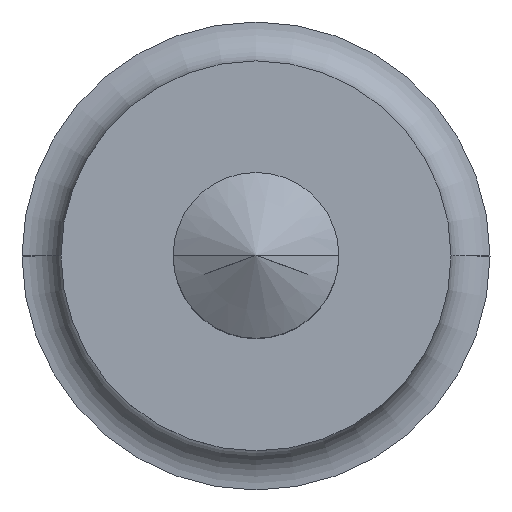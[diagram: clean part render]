
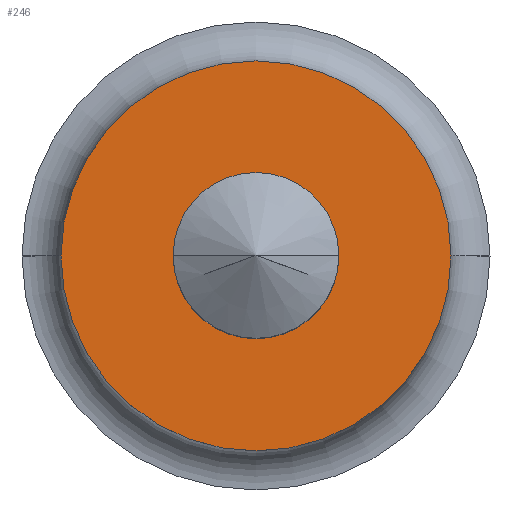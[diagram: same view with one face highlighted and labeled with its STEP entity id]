
A CAD part, top view. The second image highlights one B-rep face of the part: STEP entity #246.
In plain terms, the highlighted planar face has unit normal (0, 0, 1).
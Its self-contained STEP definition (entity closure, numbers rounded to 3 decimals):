
#7 = DIRECTION ( 'NONE',  ( 1., 0., 0. ) ) ;
#11 = CARTESIAN_POINT ( 'NONE',  ( -4.25, 0., 3. ) ) ;
#12 = EDGE_CURVE ( 'NONE', #49, #384, #60, .T. ) ;
#27 = DIRECTION ( 'NONE',  ( 0., 0., 1. ) ) ;
#41 = DIRECTION ( 'NONE',  ( 1., 0., 0. ) ) ;
#49 = VERTEX_POINT ( 'NONE', #106 ) ;
#54 = ORIENTED_EDGE ( 'NONE', *, *, #170, .T. ) ;
#60 = CIRCLE ( 'NONE', #312, 4.25 ) ;
#70 = EDGE_CURVE ( 'NONE', #384, #49, #233, .T. ) ;
#74 = VERTEX_POINT ( 'NONE', #162 ) ;
#75 = EDGE_LOOP ( 'NONE', ( #54, #219 ) ) ;
#97 = ORIENTED_EDGE ( 'NONE', *, *, #70, .F. ) ;
#99 = AXIS2_PLACEMENT_3D ( 'NONE', #132, #198, #372 ) ;
#106 = CARTESIAN_POINT ( 'NONE',  ( 4.25, 0., 3. ) ) ;
#129 = ORIENTED_EDGE ( 'NONE', *, *, #12, .F. ) ;
#132 = CARTESIAN_POINT ( 'NONE',  ( 0., 0., 3. ) ) ;
#162 = CARTESIAN_POINT ( 'NONE',  ( 10., 0., 3. ) ) ;
#170 = EDGE_CURVE ( 'NONE', #74, #413, #408, .T. ) ;
#178 = AXIS2_PLACEMENT_3D ( 'NONE', #349, #27, #259 ) ;
#196 = DIRECTION ( 'NONE',  ( 0., 0., 1. ) ) ;
#198 = DIRECTION ( 'NONE',  ( 0., 0., 1. ) ) ;
#201 = CIRCLE ( 'NONE', #275, 10. ) ;
#209 = CARTESIAN_POINT ( 'NONE',  ( 0., 0., 3. ) ) ;
#219 = ORIENTED_EDGE ( 'NONE', *, *, #337, .T. ) ;
#226 = PLANE ( 'NONE',  #178 ) ;
#233 = CIRCLE ( 'NONE', #99, 4.25 ) ;
#246 = ADVANCED_FACE ( 'NONE', ( #253, #347 ), #226, .T. ) ;
#248 = DIRECTION ( 'NONE',  ( 0., 0., 1. ) ) ;
#253 = FACE_OUTER_BOUND ( 'NONE', #75, .T. ) ;
#259 = DIRECTION ( 'NONE',  ( 1., 0., 0. ) ) ;
#264 = DIRECTION ( 'NONE',  ( 0., 0., 1. ) ) ;
#275 = AXIS2_PLACEMENT_3D ( 'NONE', #393, #264, #41 ) ;
#276 = CARTESIAN_POINT ( 'NONE',  ( 0., 0., 3. ) ) ;
#279 = CARTESIAN_POINT ( 'NONE',  ( -10., 0., 3. ) ) ;
#312 = AXIS2_PLACEMENT_3D ( 'NONE', #276, #196, #7 ) ;
#322 = AXIS2_PLACEMENT_3D ( 'NONE', #209, #248, #379 ) ;
#337 = EDGE_CURVE ( 'NONE', #413, #74, #201, .T. ) ;
#347 = FACE_BOUND ( 'NONE', #412, .T. ) ;
#349 = CARTESIAN_POINT ( 'NONE',  ( 4.25, 0., 3. ) ) ;
#372 = DIRECTION ( 'NONE',  ( 1., 0., 0. ) ) ;
#379 = DIRECTION ( 'NONE',  ( 1., 0., 0. ) ) ;
#384 = VERTEX_POINT ( 'NONE', #11 ) ;
#393 = CARTESIAN_POINT ( 'NONE',  ( 0., 0., 3. ) ) ;
#408 = CIRCLE ( 'NONE', #322, 10. ) ;
#412 = EDGE_LOOP ( 'NONE', ( #129, #97 ) ) ;
#413 = VERTEX_POINT ( 'NONE', #279 ) ;
